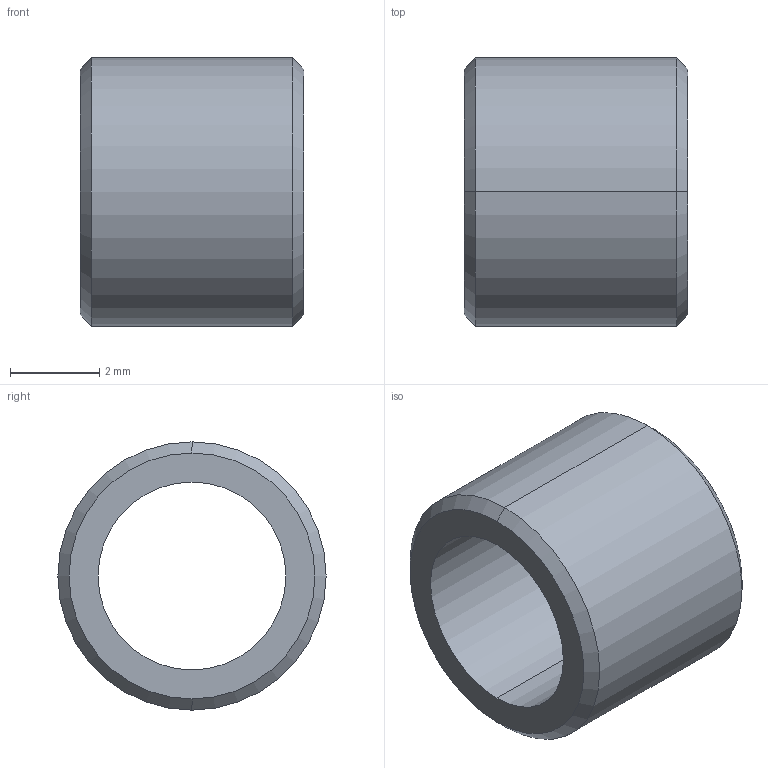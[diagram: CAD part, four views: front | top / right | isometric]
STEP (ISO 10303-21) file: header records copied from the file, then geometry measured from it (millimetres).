
FILE_DESCRIPTION (( 'STEP AP203' ), '1' );
FILE_NAME ('69000709_D6d4,2L5.STEP', '2018-06-22T12:31:15', ( '' ), ( '' ), 'SwSTEP 2.0', 'SolidWorks 2015', '' );
FILE_SCHEMA (( 'CONFIG_CONTROL_DESIGN' ));
Length unit declared in the file: millimetre
Products named in the file (1): 69000709_D6d4,2L5
Bounding box: 5 x 6 x 6 mm (x, y, z)
Volume: 71 mm3; surface area: 183.4 mm2
Topology: 1 solids, 1 shells, 10 faces, 20 edges, 12 vertices
Faces by surface type: cone 4, cylinder 4, plane 2
Entity records: 345 total; most frequent: DIRECTION 54, CARTESIAN_POINT 43, ORIENTED_EDGE 40, AXIS2_PLACEMENT_3D 23, EDGE_CURVE 20, CIRCLE 12, VERTEX_POINT 12, EDGE_LOOP 12
